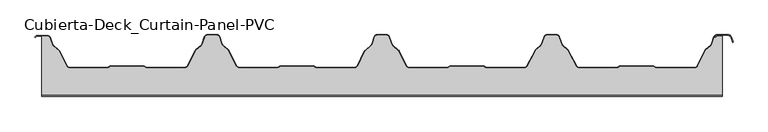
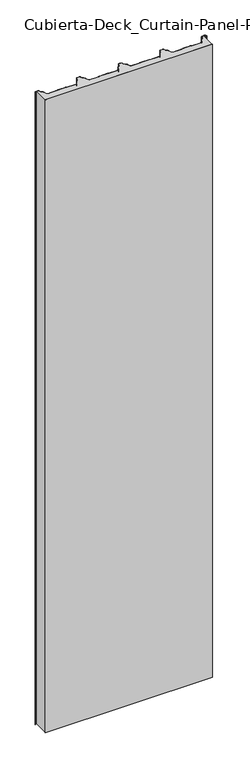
"""IFC4 building model written with IfcOpenShell, lengths in millimetres: plate geometry, Cubierta-Deck_Curtain-Panel-PVC : ACH_Cubierta-Deck_MW_40 mm."""

from ifc_helpers import new_model, si_unit, point, frame_2d, origin, origin_with_axes, place, context, project, spatial, polyline, circle_curve, trimmed, segment, composite_curve, outline, extrude, source, transform, mapped, element, save


def cubierta_deck_curtain_panel_pvc_17cb436e(model_context):
    return source(origin(), model_context, "Body", "SweptSolid", [
        extrude(outline(composite_curve([segment(polyline([(-349.0135941, -47.2718753), (-348.3934384, -47.892031)]), True, "CONTINUOUS"), segment(trimmed(circle_curve(frame_2d((-346.2014073, -45.7)), 3.1), [point((-348.3934384, -47.892031))], [point((-346.2014073, -48.8))], True, "CARTESIAN"), True, "CONTINUOUS"), segment(polyline([(-346.2014073, -48.8), (-289.4061861, -48.8)]), True, "CONTINUOUS"), segment(trimmed(circle_curve(frame_2d((-289.4061861, -44.5)), 4.3), [point((-289.4061861, -48.8))], [point((-285.5884085, -46.4785284))], True, "CARTESIAN"), True, "CONTINUOUS"), segment(polyline([(-285.5884085, -46.4785284), (-273.6825876, -23.505001)]), True, "CONTINUOUS"), segment(trimmed(circle_curve(frame_2d((-271.1078074, -24.8393573)), 2.9), [point((-273.6825876, -23.505001))], [point((-273.017236, -22.6566795))], False, "CARTESIAN"), True, "CONTINUOUS"), segment(polyline([(-273.017236, -22.6566795), (-265.2497907, -15.8616403)]), True, "CONTINUOUS"), segment(trimmed(circle_curve(frame_2d((-267.290904, -13.5284329)), 3.1), [point((-265.2497907, -15.8616403))], [point((-264.3739053, -14.5777749))], True, "CARTESIAN"), True, "CONTINUOUS"), segment(polyline([(-264.3739053, -14.5777749), (-260.2266586, -3.0491088)]), True, "CONTINUOUS"), segment(trimmed(circle_curve(frame_2d((-257.0273697, -4.2)), 3.4), [point((-260.2266586, -3.0491088))], [point((-257.0273697, -0.8))], False, "CARTESIAN"), True, "CONTINUOUS"), segment(polyline([(-257.0273697, -0.8), (-242.6920972, -0.8)]), True, "CONTINUOUS"), segment(trimmed(circle_curve(frame_2d((-242.6920972, -4.2)), 3.4), [point((-242.6920972, -0.8))], [point((-239.4928083, -3.0491088))], False, "CARTESIAN"), True, "CONTINUOUS"), segment(polyline([(-239.4928083, -3.0491088), (-235.3455616, -14.5777749)]), True, "CONTINUOUS"), segment(trimmed(circle_curve(frame_2d((-232.4285629, -13.5284329)), 3.1), [point((-235.3455616, -14.5777749))], [point((-234.4696761, -15.8616403))], True, "CARTESIAN"), True, "CONTINUOUS"), segment(polyline([(-234.4696761, -15.8616403), (-226.7022309, -22.6566795)]), True, "CONTINUOUS"), segment(trimmed(circle_curve(frame_2d((-228.6116595, -24.8393573)), 2.9), [point((-226.7022309, -22.6566795))], [point((-226.0368792, -23.505001))], False, "CARTESIAN"), True, "CONTINUOUS"), segment(polyline([(-226.0368792, -23.505001), (-214.1310583, -46.4785284)]), True, "CONTINUOUS"), segment(trimmed(circle_curve(frame_2d((-210.3132808, -44.5)), 4.3), [point((-214.1310583, -46.4785284))], [point((-210.3132808, -48.8))], True, "CARTESIAN"), True, "CONTINUOUS"), segment(polyline([(-210.3132808, -48.8), (-153.5333867, -48.8)]), True, "CONTINUOUS"), segment(trimmed(circle_curve(frame_2d((-153.5333867, -45.7)), 3.1), [point((-153.5333867, -48.8))], [point((-151.3413557, -47.892031))], True, "CARTESIAN"), True, "CONTINUOUS"), segment(polyline([(-151.3413557, -47.892031), (-150.7212, -47.2718753)]), True, "CONTINUOUS"), segment(trimmed(circle_curve(frame_2d((-149.0481053, -50.0020238)), 3.2020238), [point((-150.7212, -47.2718753))], [point((-149.0481053, -46.8))], False, "CARTESIAN"), True, "CONTINUOUS"), segment(polyline([(-149.0481053, -46.8), (-101.2020159, -46.8)]), True, "CONTINUOUS"), segment(trimmed(circle_curve(frame_2d((-101.2020159, -50.0020238)), 3.2020238), [point((-101.2020159, -46.8))], [point((-99.5289212, -47.2718753))], False, "CARTESIAN"), True, "CONTINUOUS"), segment(polyline([(-99.5289212, -47.2718753), (-98.9087655, -47.892031)]), True, "CONTINUOUS"), segment(trimmed(circle_curve(frame_2d((-96.7167345, -45.7)), 3.1), [point((-98.9087655, -47.892031))], [point((-96.7167345, -48.8))], True, "CARTESIAN"), True, "CONTINUOUS"), segment(polyline([(-96.7167345, -48.8), (-39.9215133, -48.8)]), True, "CONTINUOUS"), segment(trimmed(circle_curve(frame_2d((-39.9215133, -44.5)), 4.3), [point((-39.9215133, -48.8))], [point((-36.0707148, -46.4134657))], True, "CARTESIAN"), True, "CONTINUOUS"), segment(polyline([(-36.0707148, -46.4134657), (-25.2060392, -24.5485969)]), True, "CONTINUOUS"), segment(trimmed(circle_curve(frame_2d((-22.6089891, -25.8390738)), 2.9), [point((-25.2060392, -24.5485969))], [point((-24.5354625, -23.6714252))], False, "CARTESIAN"), True, "CONTINUOUS"), segment(polyline([(-24.5354625, -23.6714252), (-15.7323582, -15.8477646)]), True, "CONTINUOUS"), segment(trimmed(circle_curve(frame_2d((-17.7916919, -13.530623)), 3.1), [point((-15.7323582, -15.8477646))], [point((-14.8746932, -14.579965))], True, "CARTESIAN"), True, "CONTINUOUS"), segment(polyline([(-14.8746932, -14.579965), (-10.7266586, -3.0491088)]), True, "CONTINUOUS"), segment(trimmed(circle_curve(frame_2d((-7.5273697, -4.2)), 3.4), [point((-10.7266586, -3.0491088))], [point((-7.5273697, -0.8))], False, "CARTESIAN"), True, "CONTINUOUS"), segment(polyline([(-7.5273697, -0.8), (6.8079028, -0.8)]), True, "CONTINUOUS"), segment(trimmed(circle_curve(frame_2d((6.8079028, -4.2)), 3.4), [point((6.8079028, -0.8))], [point((10.0071917, -3.0491088))], False, "CARTESIAN"), True, "CONTINUOUS"), segment(polyline([(10.0071917, -3.0491088), (14.1552263, -14.579965)]), True, "CONTINUOUS"), segment(trimmed(circle_curve(frame_2d((17.072225, -13.530623)), 3.1), [point((14.1552263, -14.579965))], [point((15.0128913, -15.8477646))], True, "CARTESIAN"), True, "CONTINUOUS"), segment(polyline([(15.0128913, -15.8477646), (23.8159956, -23.6714252)]), True, "CONTINUOUS"), segment(trimmed(circle_curve(frame_2d((21.8895222, -25.8390738)), 2.9), [point((23.8159956, -23.6714252))], [point((24.4865724, -24.5485969))], False, "CARTESIAN"), True, "CONTINUOUS"), segment(polyline([(24.4865724, -24.5485969), (35.3512479, -46.4134657)]), True, "CONTINUOUS"), segment(trimmed(circle_curve(frame_2d((39.2020464, -44.5)), 4.3), [point((35.3512479, -46.4134657))], [point((39.2020464, -48.8))], True, "CARTESIAN"), True, "CONTINUOUS"), segment(polyline([(39.2020464, -48.8), (95.9819404, -48.8)]), True, "CONTINUOUS"), segment(trimmed(circle_curve(frame_2d((95.9819404, -45.7)), 3.1), [point((95.9819404, -48.8))], [point((98.1739715, -47.892031))], True, "CARTESIAN"), True, "CONTINUOUS"), segment(polyline([(98.1739715, -47.892031), (98.7941272, -47.2718753)]), True, "CONTINUOUS"), segment(trimmed(circle_curve(frame_2d((100.4672218, -50.0020238)), 3.2020238), [point((98.7941272, -47.2718753))], [point((100.4672218, -46.8))], False, "CARTESIAN"), True, "CONTINUOUS"), segment(polyline([(100.4672218, -46.8), (148.3133113, -46.8)]), True, "CONTINUOUS"), segment(trimmed(circle_curve(frame_2d((148.3133113, -50.0020238)), 3.2020238), [point((148.3133113, -46.8))], [point((149.9864059, -47.2718753))], False, "CARTESIAN"), True, "CONTINUOUS"), segment(polyline([(149.9864059, -47.2718753), (150.6065616, -47.892031)]), True, "CONTINUOUS"), segment(trimmed(circle_curve(frame_2d((152.7985927, -45.7)), 3.1), [point((150.6065616, -47.892031))], [point((152.7985927, -48.8))], True, "CARTESIAN"), True, "CONTINUOUS"), segment(polyline([(152.7985927, -48.8), (209.5938139, -48.8)]), True, "CONTINUOUS"), segment(trimmed(circle_curve(frame_2d((209.5938139, -44.5)), 4.3), [point((209.5938139, -48.8))], [point((213.4115915, -46.4785284))], True, "CARTESIAN"), True, "CONTINUOUS"), segment(polyline([(213.4115915, -46.4785284), (225.3174124, -23.505001)]), True, "CONTINUOUS"), segment(trimmed(circle_curve(frame_2d((227.8921926, -24.8393573)), 2.9), [point((225.3174124, -23.505001))], [point((225.982764, -22.6566795))], False, "CARTESIAN"), True, "CONTINUOUS"), segment(polyline([(225.982764, -22.6566795), (233.7502093, -15.8616403)]), True, "CONTINUOUS"), segment(trimmed(circle_curve(frame_2d((231.709096, -13.5284329)), 3.1), [point((233.7502093, -15.8616403))], [point((234.6260947, -14.5777749))], True, "CARTESIAN"), True, "CONTINUOUS"), segment(polyline([(234.6260947, -14.5777749), (238.7733414, -3.0491088)]), True, "CONTINUOUS"), segment(trimmed(circle_curve(frame_2d((241.9726303, -4.2)), 3.4), [point((238.7733414, -3.0491088))], [point((241.9726303, -0.8))], False, "CARTESIAN"), True, "CONTINUOUS"), segment(polyline([(241.9726303, -0.8), (256.3079028, -0.8)]), True, "CONTINUOUS"), segment(trimmed(circle_curve(frame_2d((256.3079028, -4.2)), 3.4), [point((256.3079028, -0.8))], [point((259.5071917, -3.0491088))], False, "CARTESIAN"), True, "CONTINUOUS"), segment(polyline([(259.5071917, -3.0491088), (263.6544384, -14.5777749)]), True, "CONTINUOUS"), segment(trimmed(circle_curve(frame_2d((266.5714371, -13.5284329)), 3.1), [point((263.6544384, -14.5777749))], [point((264.5303239, -15.8616403))], True, "CARTESIAN"), True, "CONTINUOUS"), segment(polyline([(264.5303239, -15.8616403), (272.2977691, -22.6566795)]), True, "CONTINUOUS"), segment(trimmed(circle_curve(frame_2d((270.3883405, -24.8393573)), 2.9), [point((272.2977691, -22.6566795))], [point((272.9631208, -23.505001))], False, "CARTESIAN"), True, "CONTINUOUS"), segment(polyline([(272.9631208, -23.505001), (284.8689417, -46.4785284)]), True, "CONTINUOUS"), segment(trimmed(circle_curve(frame_2d((288.6867192, -44.5)), 4.3), [point((284.8689417, -46.4785284))], [point((288.6867192, -48.8))], True, "CARTESIAN"), True, "CONTINUOUS"), segment(polyline([(288.6867192, -48.8), (345.4666133, -48.8)]), True, "CONTINUOUS"), segment(trimmed(circle_curve(frame_2d((345.4666133, -45.7)), 3.1), [point((345.4666133, -48.8))], [point((347.6586443, -47.892031))], True, "CARTESIAN"), True, "CONTINUOUS"), segment(polyline([(347.6586443, -47.892031), (348.2788, -47.2718753)]), True, "CONTINUOUS"), segment(trimmed(circle_curve(frame_2d((349.9518947, -50.0020238)), 3.2020238), [point((348.2788, -47.2718753))], [point((349.9518947, -46.8))], False, "CARTESIAN"), True, "CONTINUOUS"), segment(polyline([(349.9518947, -46.8), (397.7979841, -46.8)]), True, "CONTINUOUS"), segment(trimmed(circle_curve(frame_2d((397.7979841, -50.0020238)), 3.2020238), [point((397.7979841, -46.8))], [point((399.4710788, -47.2718753))], False, "CARTESIAN"), True, "CONTINUOUS"), segment(polyline([(399.4710788, -47.2718753), (400.0912345, -47.892031)]), True, "CONTINUOUS"), segment(trimmed(circle_curve(frame_2d((402.2832655, -45.7)), 3.1), [point((400.0912345, -47.892031))], [point((402.2832655, -48.8))], True, "CARTESIAN"), True, "CONTINUOUS"), segment(polyline([(402.2832655, -48.8), (460.084234, -48.8)]), True, "CONTINUOUS"), segment(trimmed(circle_curve(frame_2d((460.084234, -44.5)), 4.3), [point((460.084234, -48.8))], [point((463.9685573, -46.3444599))], True, "CARTESIAN"), True, "CONTINUOUS"), segment(polyline([(463.9685573, -46.3444599), (474.7696963, -23.5979005)]), True, "CONTINUOUS"), segment(trimmed(circle_curve(frame_2d((477.3893563, -24.8418385)), 2.9), [point((474.7696963, -23.5979005))], [point((475.4799277, -22.6591607))], False, "CARTESIAN"), True, "CONTINUOUS"), segment(polyline([(475.4799277, -22.6591607), (483.2502093, -15.8616403)]), True, "CONTINUOUS"), segment(trimmed(circle_curve(frame_2d((481.209096, -13.5284329)), 3.1), [point((483.2502093, -15.8616403))], [point((484.1260947, -14.5777749))], True, "CARTESIAN"), True, "CONTINUOUS"), segment(polyline([(484.1260947, -14.5777749), (488.2177168, -3.2037362), (490.5677139, -4.0491088)]), True, "CONTINUOUS"), segment(trimmed(circle_curve(frame_2d((493.7670027, -5.2)), 3.4), [point((490.5677139, -4.0491088))], [point((493.7670027, -1.8))], False, "CARTESIAN"), True, "CONTINUOUS"), segment(polyline([(493.7670027, -1.8), (500.0, -1.8), (500.0, -88.8), (-500.0, -88.8), (-500.0, -1.8), (-491.8323638, -1.8)]), True, "CONTINUOUS"), segment(trimmed(circle_curve(frame_2d((-491.8323638, -5.2)), 3.4), [point((-491.8323638, -1.8))], [point((-488.6330749, -4.0491088))], False, "CARTESIAN"), True, "CONTINUOUS"), segment(polyline([(-488.6330749, -4.0491088), (-484.8455616, -14.5777749)]), True, "CONTINUOUS"), segment(trimmed(circle_curve(frame_2d((-481.9285629, -13.5284329)), 3.1), [point((-484.8455616, -14.5777749))], [point((-483.9696761, -15.8616403))], True, "CARTESIAN"), True, "CONTINUOUS"), segment(polyline([(-483.9696761, -15.8616403), (-475.3099327, -23.4372709)]), True, "CONTINUOUS"), segment(trimmed(circle_curve(frame_2d((-477.2193612, -25.6199488)), 2.9), [point((-475.3099327, -23.4372709))], [point((-474.6223111, -24.3294719))], False, "CARTESIAN"), True, "CONTINUOUS"), segment(polyline([(-474.6223111, -24.3294719), (-463.6487521, -46.4134657)]), True, "CONTINUOUS"), segment(trimmed(circle_curve(frame_2d((-459.7979536, -44.5)), 4.3), [point((-463.6487521, -46.4134657))], [point((-459.7979536, -48.8))], True, "CARTESIAN"), True, "CONTINUOUS"), segment(polyline([(-459.7979536, -48.8), (-403.0180596, -48.8)]), True, "CONTINUOUS"), segment(trimmed(circle_curve(frame_2d((-403.0180596, -45.7)), 3.1), [point((-403.0180596, -48.8))], [point((-400.8260285, -47.892031))], True, "CARTESIAN"), True, "CONTINUOUS"), segment(polyline([(-400.8260285, -47.892031), (-400.2058728, -47.2718753)]), True, "CONTINUOUS"), segment(trimmed(circle_curve(frame_2d((-398.5327782, -50.0020238)), 3.2020238), [point((-400.2058728, -47.2718753))], [point((-398.5327782, -46.8))], False, "CARTESIAN"), True, "CONTINUOUS"), segment(polyline([(-398.5327782, -46.8), (-350.6866887, -46.8)]), True, "CONTINUOUS"), segment(trimmed(circle_curve(frame_2d((-350.6866887, -50.0020238)), 3.2020238), [point((-350.6866887, -46.8))], [point((-349.0135941, -47.2718753))], False, "CARTESIAN"), True, "CONTINUOUS")], self_intersect=False)), origin_with_axes(), (0.0, 0.0, 1.0), 4000.0),
        extrude(outline(composite_curve([segment(polyline([(-506.1676362, -1.0), (-491.8323638, -1.0)]), True, "CONTINUOUS"), segment(trimmed(circle_curve(frame_2d((-491.8323638, -5.2)), 4.2), [point((-491.8323638, -1.0))], [point((-487.880301, -3.7783109))], False, "CARTESIAN"), True, "CONTINUOUS"), segment(polyline([(-487.880301, -3.7783109), (-484.0927877, -14.3069769)]), True, "CONTINUOUS"), segment(trimmed(circle_curve(frame_2d((-481.9285629, -13.5284329)), 2.3), [point((-484.0927877, -14.3069769))], [point((-483.4429372, -15.2595222))], True, "CARTESIAN"), True, "CONTINUOUS"), segment(polyline([(-483.4429372, -15.2595222), (-474.7831938, -22.8351529)]), True, "CONTINUOUS"), segment(trimmed(circle_curve(frame_2d((-477.2193612, -25.6199488)), 3.7), [point((-474.7831938, -22.8351529))], [point((-473.9058834, -23.9734783))], False, "CARTESIAN"), True, "CONTINUOUS"), segment(polyline([(-473.9058834, -23.9734783), (-462.9323245, -46.0574721)]), True, "CONTINUOUS"), segment(trimmed(circle_curve(frame_2d((-459.7979536, -44.5)), 3.5), [point((-462.9323245, -46.0574721))], [point((-459.7979536, -48.0))], True, "CARTESIAN"), True, "CONTINUOUS"), segment(polyline([(-459.7979536, -48.0), (-403.0180596, -48.0)]), True, "CONTINUOUS"), segment(trimmed(circle_curve(frame_2d((-403.0180596, -45.7)), 2.3), [point((-403.0180596, -48.0))], [point((-401.391714, -47.3263456))], True, "CARTESIAN"), True, "CONTINUOUS"), segment(polyline([(-401.391714, -47.3263456), (-400.7083848, -46.6430165)]), True, "CONTINUOUS"), segment(trimmed(circle_curve(frame_2d((-398.5327782, -50.0020238)), 4.0020238), [point((-400.7083848, -46.6430165))], [point((-398.5327782, -46.0))], False, "CARTESIAN"), True, "CONTINUOUS"), segment(polyline([(-398.5327782, -46.0), (-350.6866887, -46.0)]), True, "CONTINUOUS"), segment(trimmed(circle_curve(frame_2d((-350.6866887, -50.0020238)), 4.0020238), [point((-350.6866887, -46.0))], [point((-348.511082, -46.6430165))], False, "CARTESIAN"), True, "CONTINUOUS"), segment(polyline([(-348.511082, -46.6430165), (-347.8277529, -47.3263456)]), True, "CONTINUOUS"), segment(trimmed(circle_curve(frame_2d((-346.2014073, -45.7)), 2.3), [point((-347.8277529, -47.3263456))], [point((-346.2014073, -48.0))], True, "CARTESIAN"), True, "CONTINUOUS"), segment(polyline([(-346.2014073, -48.0), (-289.4061861, -48.0)]), True, "CONTINUOUS"), segment(trimmed(circle_curve(frame_2d((-289.4061861, -44.5)), 3.5), [point((-289.4061861, -48.0))], [point((-286.2986927, -46.1104301))], True, "CARTESIAN"), True, "CONTINUOUS"), segment(polyline([(-286.2986927, -46.1104301), (-274.3928718, -23.1369027)]), True, "CONTINUOUS"), segment(trimmed(circle_curve(frame_2d((-271.1078074, -24.8393573)), 3.7), [point((-274.3928718, -23.1369027))], [point((-273.5439749, -22.0545614))], False, "CARTESIAN"), True, "CONTINUOUS"), segment(polyline([(-273.5439749, -22.0545614), (-265.7765297, -15.2595222)]), True, "CONTINUOUS"), segment(trimmed(circle_curve(frame_2d((-267.290904, -13.5284329)), 2.3), [point((-265.7765297, -15.2595222))], [point((-265.1266792, -14.3069769))], True, "CARTESIAN"), True, "CONTINUOUS"), segment(polyline([(-265.1266792, -14.3069769), (-260.9794324, -2.7783109)]), True, "CONTINUOUS"), segment(trimmed(circle_curve(frame_2d((-257.0273697, -4.2)), 4.2), [point((-260.9794324, -2.7783109))], [point((-257.0273697, 0.0))], False, "CARTESIAN"), True, "CONTINUOUS"), segment(polyline([(-257.0273697, 0.0), (-242.6920972, 0.0)]), True, "CONTINUOUS"), segment(trimmed(circle_curve(frame_2d((-242.6920972, -4.2)), 4.2), [point((-242.6920972, 0.0))], [point((-238.7400345, -2.7783109))], False, "CARTESIAN"), True, "CONTINUOUS"), segment(polyline([(-238.7400345, -2.7783109), (-234.5927877, -14.3069769)]), True, "CONTINUOUS"), segment(trimmed(circle_curve(frame_2d((-232.4285629, -13.5284329)), 2.3), [point((-234.5927877, -14.3069769))], [point((-233.9429372, -15.2595222))], True, "CARTESIAN"), True, "CONTINUOUS"), segment(polyline([(-233.9429372, -15.2595222), (-226.175492, -22.0545614)]), True, "CONTINUOUS"), segment(trimmed(circle_curve(frame_2d((-228.6116595, -24.8393573)), 3.7), [point((-226.175492, -22.0545614))], [point((-225.326595, -23.1369027))], False, "CARTESIAN"), True, "CONTINUOUS"), segment(polyline([(-225.326595, -23.1369027), (-213.4207742, -46.1104301)]), True, "CONTINUOUS"), segment(trimmed(circle_curve(frame_2d((-210.3132808, -44.5)), 3.5), [point((-213.4207742, -46.1104301))], [point((-210.3132808, -48.0))], True, "CARTESIAN"), True, "CONTINUOUS"), segment(polyline([(-210.3132808, -48.0), (-153.5333867, -48.0)]), True, "CONTINUOUS"), segment(trimmed(circle_curve(frame_2d((-153.5333867, -45.7)), 2.3), [point((-153.5333867, -48.0))], [point((-151.9070411, -47.3263456))], True, "CARTESIAN"), True, "CONTINUOUS"), segment(polyline([(-151.9070411, -47.3263456), (-151.223712, -46.6430165)]), True, "CONTINUOUS"), segment(trimmed(circle_curve(frame_2d((-149.0481053, -50.0020238)), 4.0020238), [point((-151.223712, -46.6430165))], [point((-149.0481053, -46.0))], False, "CARTESIAN"), True, "CONTINUOUS"), segment(polyline([(-149.0481053, -46.0), (-101.2020159, -46.0)]), True, "CONTINUOUS"), segment(trimmed(circle_curve(frame_2d((-101.2020159, -50.0020238)), 4.0020238), [point((-101.2020159, -46.0))], [point((-99.0264092, -46.6430165))], False, "CARTESIAN"), True, "CONTINUOUS"), segment(polyline([(-99.0264092, -46.6430165), (-98.3430801, -47.3263456)]), True, "CONTINUOUS"), segment(trimmed(circle_curve(frame_2d((-96.7167345, -45.7)), 2.3), [point((-98.3430801, -47.3263456))], [point((-96.7167345, -48.0))], True, "CARTESIAN"), True, "CONTINUOUS"), segment(polyline([(-96.7167345, -48.0), (-39.9215133, -48.0)]), True, "CONTINUOUS"), segment(trimmed(circle_curve(frame_2d((-39.9215133, -44.5)), 3.5), [point((-39.9215133, -48.0))], [point((-36.7871424, -46.0574721))], True, "CARTESIAN"), True, "CONTINUOUS"), segment(polyline([(-36.7871424, -46.0574721), (-25.9224669, -24.1926033)]), True, "CONTINUOUS"), segment(trimmed(circle_curve(frame_2d((-22.6089891, -25.8390738)), 3.7), [point((-25.9224669, -24.1926033))], [point((-25.0669035, -23.0734532))], False, "CARTESIAN"), True, "CONTINUOUS"), segment(polyline([(-25.0669035, -23.0734532), (-16.2637992, -15.2497926)]), True, "CONTINUOUS"), segment(trimmed(circle_curve(frame_2d((-17.7916919, -13.530623)), 2.3), [point((-16.2637992, -15.2497926))], [point((-15.627467, -14.3091671))], True, "CARTESIAN"), True, "CONTINUOUS"), segment(polyline([(-15.627467, -14.3091671), (-11.4794324, -2.7783109)]), True, "CONTINUOUS"), segment(trimmed(circle_curve(frame_2d((-7.5273697, -4.2)), 4.2), [point((-11.4794324, -2.7783109))], [point((-7.5273697, 0.0))], False, "CARTESIAN"), True, "CONTINUOUS"), segment(polyline([(-7.5273697, 0.0), (6.8079028, 0.0)]), True, "CONTINUOUS"), segment(trimmed(circle_curve(frame_2d((6.8079028, -4.2)), 4.2), [point((6.8079028, 0.0))], [point((10.7599655, -2.7783109))], False, "CARTESIAN"), True, "CONTINUOUS"), segment(polyline([(10.7599655, -2.7783109), (14.9080002, -14.3091671)]), True, "CONTINUOUS"), segment(trimmed(circle_curve(frame_2d((17.072225, -13.530623)), 2.3), [point((14.9080002, -14.3091671))], [point((15.5443323, -15.2497926))], True, "CARTESIAN"), True, "CONTINUOUS"), segment(polyline([(15.5443323, -15.2497926), (24.3474366, -23.0734532)]), True, "CONTINUOUS"), segment(trimmed(circle_curve(frame_2d((21.8895222, -25.8390738)), 3.7), [point((24.3474366, -23.0734532))], [point((25.203, -24.1926033))], False, "CARTESIAN"), True, "CONTINUOUS"), segment(polyline([(25.203, -24.1926033), (36.0676755, -46.0574721)]), True, "CONTINUOUS"), segment(trimmed(circle_curve(frame_2d((39.2020464, -44.5)), 3.5), [point((36.0676755, -46.0574721))], [point((39.2020464, -48.0))], True, "CARTESIAN"), True, "CONTINUOUS"), segment(polyline([(39.2020464, -48.0), (95.9819404, -48.0)]), True, "CONTINUOUS"), segment(trimmed(circle_curve(frame_2d((95.9819404, -45.7)), 2.3), [point((95.9819404, -48.0))], [point((97.608286, -47.3263456))], True, "CARTESIAN"), True, "CONTINUOUS"), segment(polyline([(97.608286, -47.3263456), (98.2916152, -46.6430165)]), True, "CONTINUOUS"), segment(trimmed(circle_curve(frame_2d((100.4672218, -50.0020238)), 4.0020238), [point((98.2916152, -46.6430165))], [point((100.4672218, -46.0))], False, "CARTESIAN"), True, "CONTINUOUS"), segment(polyline([(100.4672218, -46.0), (148.3133113, -46.0)]), True, "CONTINUOUS"), segment(trimmed(circle_curve(frame_2d((148.3133113, -50.0020238)), 4.0020238), [point((148.3133113, -46.0))], [point((150.488918, -46.6430165))], False, "CARTESIAN"), True, "CONTINUOUS"), segment(polyline([(150.488918, -46.6430165), (151.1722471, -47.3263456)]), True, "CONTINUOUS"), segment(trimmed(circle_curve(frame_2d((152.7985927, -45.7)), 2.3), [point((151.1722471, -47.3263456))], [point((152.7985927, -48.0))], True, "CARTESIAN"), True, "CONTINUOUS"), segment(polyline([(152.7985927, -48.0), (209.5938139, -48.0)]), True, "CONTINUOUS"), segment(trimmed(circle_curve(frame_2d((209.5938139, -44.5)), 3.5), [point((209.5938139, -48.0))], [point((212.7013073, -46.1104301))], True, "CARTESIAN"), True, "CONTINUOUS"), segment(polyline([(212.7013073, -46.1104301), (224.6071282, -23.1369027)]), True, "CONTINUOUS"), segment(trimmed(circle_curve(frame_2d((227.8921926, -24.8393573)), 3.7), [point((224.6071282, -23.1369027))], [point((225.4560251, -22.0545614))], False, "CARTESIAN"), True, "CONTINUOUS"), segment(polyline([(225.4560251, -22.0545614), (233.2234703, -15.2595222)]), True, "CONTINUOUS"), segment(trimmed(circle_curve(frame_2d((231.709096, -13.5284329)), 2.3), [point((233.2234703, -15.2595222))], [point((233.8733208, -14.3069769))], True, "CARTESIAN"), True, "CONTINUOUS"), segment(polyline([(233.8733208, -14.3069769), (238.0205676, -2.7783109)]), True, "CONTINUOUS"), segment(trimmed(circle_curve(frame_2d((241.9726303, -4.2)), 4.2), [point((238.0205676, -2.7783109))], [point((241.9726303, 0.0))], False, "CARTESIAN"), True, "CONTINUOUS"), segment(polyline([(241.9726303, 0.0), (256.3079028, 0.0)]), True, "CONTINUOUS"), segment(trimmed(circle_curve(frame_2d((256.3079028, -4.2)), 4.2), [point((256.3079028, 0.0))], [point((260.2599655, -2.7783109))], False, "CARTESIAN"), True, "CONTINUOUS"), segment(polyline([(260.2599655, -2.7783109), (264.4072123, -14.3069769)]), True, "CONTINUOUS"), segment(trimmed(circle_curve(frame_2d((266.5714371, -13.5284329)), 2.3), [point((264.4072123, -14.3069769))], [point((265.0570628, -15.2595222))], True, "CARTESIAN"), True, "CONTINUOUS"), segment(polyline([(265.0570628, -15.2595222), (272.824508, -22.0545614)]), True, "CONTINUOUS"), segment(trimmed(circle_curve(frame_2d((270.3883405, -24.8393573)), 3.7), [point((272.824508, -22.0545614))], [point((273.673405, -23.1369027))], False, "CARTESIAN"), True, "CONTINUOUS"), segment(polyline([(273.673405, -23.1369027), (285.5792258, -46.1104301)]), True, "CONTINUOUS"), segment(trimmed(circle_curve(frame_2d((288.6867192, -44.5)), 3.5), [point((285.5792258, -46.1104301))], [point((288.6867192, -48.0))], True, "CARTESIAN"), True, "CONTINUOUS"), segment(polyline([(288.6867192, -48.0), (345.4666133, -48.0)]), True, "CONTINUOUS"), segment(trimmed(circle_curve(frame_2d((345.4666133, -45.7)), 2.3), [point((345.4666133, -48.0))], [point((347.0929589, -47.3263456))], True, "CARTESIAN"), True, "CONTINUOUS"), segment(polyline([(347.0929589, -47.3263456), (347.776288, -46.6430165)]), True, "CONTINUOUS"), segment(trimmed(circle_curve(frame_2d((349.9518947, -50.0020238)), 4.0020238), [point((347.776288, -46.6430165))], [point((349.9518947, -46.0))], False, "CARTESIAN"), True, "CONTINUOUS"), segment(polyline([(349.9518947, -46.0), (397.7979841, -46.0)]), True, "CONTINUOUS"), segment(trimmed(circle_curve(frame_2d((397.7979841, -50.0020238)), 4.0020238), [point((397.7979841, -46.0))], [point((399.9735908, -46.6430165))], False, "CARTESIAN"), True, "CONTINUOUS"), segment(polyline([(399.9735908, -46.6430165), (400.6569199, -47.3263456)]), True, "CONTINUOUS"), segment(trimmed(circle_curve(frame_2d((402.2832655, -45.7)), 2.3), [point((400.6569199, -47.3263456))], [point((402.2832655, -48.0))], True, "CARTESIAN"), True, "CONTINUOUS"), segment(polyline([(402.2832655, -48.0), (460.084234, -48.0)]), True, "CONTINUOUS"), segment(trimmed(circle_curve(frame_2d((460.084234, -44.5)), 3.5), [point((460.084234, -48.0))], [point((463.2458925, -46.0013046))], True, "CARTESIAN"), True, "CONTINUOUS"), segment(polyline([(463.2458925, -46.0013046), (474.0470315, -23.2547451)]), True, "CONTINUOUS"), segment(trimmed(circle_curve(frame_2d((477.3893563, -24.8418385)), 3.7), [point((474.0470315, -23.2547451))], [point((474.9531888, -22.0570426))], False, "CARTESIAN"), True, "CONTINUOUS"), segment(polyline([(474.9531888, -22.0570426), (482.7234703, -15.2595222)]), True, "CONTINUOUS"), segment(trimmed(circle_curve(frame_2d((481.209096, -13.5284329)), 2.3), [point((482.7234703, -15.2595222))], [point((483.3733208, -14.3069769))], True, "CARTESIAN"), True, "CONTINUOUS"), segment(polyline([(483.3733208, -14.3069769), (487.5205676, -2.7783109)]), True, "CONTINUOUS"), segment(trimmed(circle_curve(frame_2d((491.4726303, -4.2)), 4.2), [point((487.5205676, -2.7783109))], [point((491.4726303, 0.0))], False, "CARTESIAN"), True, "CONTINUOUS"), segment(polyline([(491.4726303, 0.0), (508.6580917, 0.0)]), True, "CONTINUOUS"), segment(trimmed(circle_curve(frame_2d((508.6580917, -4.2)), 4.2), [point((508.6580917, 0.0))], [point((512.6101545, -2.7783109))], False, "CARTESIAN"), True, "CONTINUOUS"), segment(polyline([(512.6101545, -2.7783109), (515.5925551, -11.0688956), (514.8397812, -11.3396935), (511.8573806, -3.0491088)]), True, "CONTINUOUS"), segment(trimmed(circle_curve(frame_2d((508.6580917, -4.2)), 3.4), [point((511.8573806, -3.0491088))], [point((508.6580917, -0.8))], True, "CARTESIAN"), True, "CONTINUOUS"), segment(polyline([(508.6580917, -0.8), (491.4726303, -0.8)]), True, "CONTINUOUS"), segment(trimmed(circle_curve(frame_2d((491.4726303, -4.2)), 3.4), [point((491.4726303, -0.8))], [point((488.2733414, -3.0491088))], True, "CARTESIAN"), True, "CONTINUOUS"), segment(polyline([(488.2733414, -3.0491088), (484.1260947, -14.5777749)]), True, "CONTINUOUS"), segment(trimmed(circle_curve(frame_2d((481.209096, -13.5284329)), 3.1), [point((484.1260947, -14.5777749))], [point((483.2502093, -15.8616403))], False, "CARTESIAN"), True, "CONTINUOUS"), segment(polyline([(483.2502093, -15.8616403), (475.4799277, -22.6591607)]), True, "CONTINUOUS"), segment(trimmed(circle_curve(frame_2d((477.3893563, -24.8418385)), 2.9), [point((475.4799277, -22.6591607))], [point((474.7696963, -23.5979005))], True, "CARTESIAN"), True, "CONTINUOUS"), segment(polyline([(474.7696963, -23.5979005), (463.9685573, -46.3444599)]), True, "CONTINUOUS"), segment(trimmed(circle_curve(frame_2d((460.084234, -44.5)), 4.3), [point((463.9685573, -46.3444599))], [point((460.084234, -48.8))], False, "CARTESIAN"), True, "CONTINUOUS"), segment(polyline([(460.084234, -48.8), (402.2832655, -48.8)]), True, "CONTINUOUS"), segment(trimmed(circle_curve(frame_2d((402.2832655, -45.7)), 3.1), [point((402.2832655, -48.8))], [point((400.0912345, -47.892031))], False, "CARTESIAN"), True, "CONTINUOUS"), segment(polyline([(400.0912345, -47.892031), (399.4710788, -47.2718753)]), True, "CONTINUOUS"), segment(trimmed(circle_curve(frame_2d((397.7979841, -50.0020238)), 3.2020238), [point((399.4710788, -47.2718753))], [point((397.7979841, -46.8))], True, "CARTESIAN"), True, "CONTINUOUS"), segment(polyline([(397.7979841, -46.8), (349.9518947, -46.8)]), True, "CONTINUOUS"), segment(trimmed(circle_curve(frame_2d((349.9518947, -50.0020238)), 3.2020238), [point((349.9518947, -46.8))], [point((348.2788, -47.2718753))], True, "CARTESIAN"), True, "CONTINUOUS"), segment(polyline([(348.2788, -47.2718753), (347.6586443, -47.892031)]), True, "CONTINUOUS"), segment(trimmed(circle_curve(frame_2d((345.4666133, -45.7)), 3.1), [point((347.6586443, -47.892031))], [point((345.4666133, -48.8))], False, "CARTESIAN"), True, "CONTINUOUS"), segment(polyline([(345.4666133, -48.8), (288.6867192, -48.8)]), True, "CONTINUOUS"), segment(trimmed(circle_curve(frame_2d((288.6867192, -44.5)), 4.3), [point((288.6867192, -48.8))], [point((284.8689417, -46.4785284))], False, "CARTESIAN"), True, "CONTINUOUS"), segment(polyline([(284.8689417, -46.4785284), (272.9631208, -23.505001)]), True, "CONTINUOUS"), segment(trimmed(circle_curve(frame_2d((270.3883405, -24.8393573)), 2.9), [point((272.9631208, -23.505001))], [point((272.2977691, -22.6566795))], True, "CARTESIAN"), True, "CONTINUOUS"), segment(polyline([(272.2977691, -22.6566795), (264.5303239, -15.8616403)]), True, "CONTINUOUS"), segment(trimmed(circle_curve(frame_2d((266.5714371, -13.5284329)), 3.1), [point((264.5303239, -15.8616403))], [point((263.6544384, -14.5777749))], False, "CARTESIAN"), True, "CONTINUOUS"), segment(polyline([(263.6544384, -14.5777749), (259.5071917, -3.0491088)]), True, "CONTINUOUS"), segment(trimmed(circle_curve(frame_2d((256.3079028, -4.2)), 3.4), [point((259.5071917, -3.0491088))], [point((256.3079028, -0.8))], True, "CARTESIAN"), True, "CONTINUOUS"), segment(polyline([(256.3079028, -0.8), (241.9726303, -0.8)]), True, "CONTINUOUS"), segment(trimmed(circle_curve(frame_2d((241.9726303, -4.2)), 3.4), [point((241.9726303, -0.8))], [point((238.7733414, -3.0491088))], True, "CARTESIAN"), True, "CONTINUOUS"), segment(polyline([(238.7733414, -3.0491088), (234.6260947, -14.5777749)]), True, "CONTINUOUS"), segment(trimmed(circle_curve(frame_2d((231.709096, -13.5284329)), 3.1), [point((234.6260947, -14.5777749))], [point((233.7502093, -15.8616403))], False, "CARTESIAN"), True, "CONTINUOUS"), segment(polyline([(233.7502093, -15.8616403), (225.982764, -22.6566795)]), True, "CONTINUOUS"), segment(trimmed(circle_curve(frame_2d((227.8921926, -24.8393573)), 2.9), [point((225.982764, -22.6566795))], [point((225.3174124, -23.505001))], True, "CARTESIAN"), True, "CONTINUOUS"), segment(polyline([(225.3174124, -23.505001), (213.4115915, -46.4785284)]), True, "CONTINUOUS"), segment(trimmed(circle_curve(frame_2d((209.5938139, -44.5)), 4.3), [point((213.4115915, -46.4785284))], [point((209.5938139, -48.8))], False, "CARTESIAN"), True, "CONTINUOUS"), segment(polyline([(209.5938139, -48.8), (152.7985927, -48.8)]), True, "CONTINUOUS"), segment(trimmed(circle_curve(frame_2d((152.7985927, -45.7)), 3.1), [point((152.7985927, -48.8))], [point((150.6065616, -47.892031))], False, "CARTESIAN"), True, "CONTINUOUS"), segment(polyline([(150.6065616, -47.892031), (149.9864059, -47.2718753)]), True, "CONTINUOUS"), segment(trimmed(circle_curve(frame_2d((148.3133113, -50.0020238)), 3.2020238), [point((149.9864059, -47.2718753))], [point((148.3133113, -46.8))], True, "CARTESIAN"), True, "CONTINUOUS"), segment(polyline([(148.3133113, -46.8), (100.4672218, -46.8)]), True, "CONTINUOUS"), segment(trimmed(circle_curve(frame_2d((100.4672218, -50.0020238)), 3.2020238), [point((100.4672218, -46.8))], [point((98.7941272, -47.2718753))], True, "CARTESIAN"), True, "CONTINUOUS"), segment(polyline([(98.7941272, -47.2718753), (98.1739715, -47.892031)]), True, "CONTINUOUS"), segment(trimmed(circle_curve(frame_2d((95.9819404, -45.7)), 3.1), [point((98.1739715, -47.892031))], [point((95.9819404, -48.8))], False, "CARTESIAN"), True, "CONTINUOUS"), segment(polyline([(95.9819404, -48.8), (39.2020464, -48.8)]), True, "CONTINUOUS"), segment(trimmed(circle_curve(frame_2d((39.2020464, -44.5)), 4.3), [point((39.2020464, -48.8))], [point((35.3512479, -46.4134657))], False, "CARTESIAN"), True, "CONTINUOUS"), segment(polyline([(35.3512479, -46.4134657), (24.4865724, -24.5485969)]), True, "CONTINUOUS"), segment(trimmed(circle_curve(frame_2d((21.8895222, -25.8390738)), 2.9), [point((24.4865724, -24.5485969))], [point((23.8159956, -23.6714252))], True, "CARTESIAN"), True, "CONTINUOUS"), segment(polyline([(23.8159956, -23.6714252), (15.0128913, -15.8477646)]), True, "CONTINUOUS"), segment(trimmed(circle_curve(frame_2d((17.072225, -13.530623)), 3.1), [point((15.0128913, -15.8477646))], [point((14.1552263, -14.579965))], False, "CARTESIAN"), True, "CONTINUOUS"), segment(polyline([(14.1552263, -14.579965), (10.0071917, -3.0491088)]), True, "CONTINUOUS"), segment(trimmed(circle_curve(frame_2d((6.8079028, -4.2)), 3.4), [point((10.0071917, -3.0491088))], [point((6.8079028, -0.8))], True, "CARTESIAN"), True, "CONTINUOUS"), segment(polyline([(6.8079028, -0.8), (-7.5273697, -0.8)]), True, "CONTINUOUS"), segment(trimmed(circle_curve(frame_2d((-7.5273697, -4.2)), 3.4), [point((-7.5273697, -0.8))], [point((-10.7266586, -3.0491088))], True, "CARTESIAN"), True, "CONTINUOUS"), segment(polyline([(-10.7266586, -3.0491088), (-14.8746932, -14.579965)]), True, "CONTINUOUS"), segment(trimmed(circle_curve(frame_2d((-17.7916919, -13.530623)), 3.1), [point((-14.8746932, -14.579965))], [point((-15.7323582, -15.8477646))], False, "CARTESIAN"), True, "CONTINUOUS"), segment(polyline([(-15.7323582, -15.8477646), (-24.5354625, -23.6714252)]), True, "CONTINUOUS"), segment(trimmed(circle_curve(frame_2d((-22.6089891, -25.8390738)), 2.9), [point((-24.5354625, -23.6714252))], [point((-25.2060392, -24.5485969))], True, "CARTESIAN"), True, "CONTINUOUS"), segment(polyline([(-25.2060392, -24.5485969), (-36.0707148, -46.4134657)]), True, "CONTINUOUS"), segment(trimmed(circle_curve(frame_2d((-39.9215133, -44.5)), 4.3), [point((-36.0707148, -46.4134657))], [point((-39.9215133, -48.8))], False, "CARTESIAN"), True, "CONTINUOUS"), segment(polyline([(-39.9215133, -48.8), (-96.7167345, -48.8)]), True, "CONTINUOUS"), segment(trimmed(circle_curve(frame_2d((-96.7167345, -45.7)), 3.1), [point((-96.7167345, -48.8))], [point((-98.9087655, -47.892031))], False, "CARTESIAN"), True, "CONTINUOUS"), segment(polyline([(-98.9087655, -47.892031), (-99.5289212, -47.2718753)]), True, "CONTINUOUS"), segment(trimmed(circle_curve(frame_2d((-101.2020159, -50.0020238)), 3.2020238), [point((-99.5289212, -47.2718753))], [point((-101.2020159, -46.8))], True, "CARTESIAN"), True, "CONTINUOUS"), segment(polyline([(-101.2020159, -46.8), (-149.0481053, -46.8)]), True, "CONTINUOUS"), segment(trimmed(circle_curve(frame_2d((-149.0481053, -50.0020238)), 3.2020238), [point((-149.0481053, -46.8))], [point((-150.7212, -47.2718753))], True, "CARTESIAN"), True, "CONTINUOUS"), segment(polyline([(-150.7212, -47.2718753), (-151.3413557, -47.892031)]), True, "CONTINUOUS"), segment(trimmed(circle_curve(frame_2d((-153.5333867, -45.7)), 3.1), [point((-151.3413557, -47.892031))], [point((-153.5333867, -48.8))], False, "CARTESIAN"), True, "CONTINUOUS"), segment(polyline([(-153.5333867, -48.8), (-210.3132808, -48.8)]), True, "CONTINUOUS"), segment(trimmed(circle_curve(frame_2d((-210.3132808, -44.5)), 4.3), [point((-210.3132808, -48.8))], [point((-214.1310583, -46.4785284))], False, "CARTESIAN"), True, "CONTINUOUS"), segment(polyline([(-214.1310583, -46.4785284), (-226.0368792, -23.505001)]), True, "CONTINUOUS"), segment(trimmed(circle_curve(frame_2d((-228.6116595, -24.8393573)), 2.9), [point((-226.0368792, -23.505001))], [point((-226.7022309, -22.6566795))], True, "CARTESIAN"), True, "CONTINUOUS"), segment(polyline([(-226.7022309, -22.6566795), (-234.4696761, -15.8616403)]), True, "CONTINUOUS"), segment(trimmed(circle_curve(frame_2d((-232.4285629, -13.5284329)), 3.1), [point((-234.4696761, -15.8616403))], [point((-235.3455616, -14.5777749))], False, "CARTESIAN"), True, "CONTINUOUS"), segment(polyline([(-235.3455616, -14.5777749), (-239.4928083, -3.0491088)]), True, "CONTINUOUS"), segment(trimmed(circle_curve(frame_2d((-242.6920972, -4.2)), 3.4), [point((-239.4928083, -3.0491088))], [point((-242.6920972, -0.8))], True, "CARTESIAN"), True, "CONTINUOUS"), segment(polyline([(-242.6920972, -0.8), (-257.0273697, -0.8)]), True, "CONTINUOUS"), segment(trimmed(circle_curve(frame_2d((-257.0273697, -4.2)), 3.4), [point((-257.0273697, -0.8))], [point((-260.2266586, -3.0491088))], True, "CARTESIAN"), True, "CONTINUOUS"), segment(polyline([(-260.2266586, -3.0491088), (-264.3739053, -14.5777749)]), True, "CONTINUOUS"), segment(trimmed(circle_curve(frame_2d((-267.290904, -13.5284329)), 3.1), [point((-264.3739053, -14.5777749))], [point((-265.2497907, -15.8616403))], False, "CARTESIAN"), True, "CONTINUOUS"), segment(polyline([(-265.2497907, -15.8616403), (-273.017236, -22.6566795)]), True, "CONTINUOUS"), segment(trimmed(circle_curve(frame_2d((-271.1078074, -24.8393573)), 2.9), [point((-273.017236, -22.6566795))], [point((-273.6825876, -23.505001))], True, "CARTESIAN"), True, "CONTINUOUS"), segment(polyline([(-273.6825876, -23.505001), (-285.5884085, -46.4785284)]), True, "CONTINUOUS"), segment(trimmed(circle_curve(frame_2d((-289.4061861, -44.5)), 4.3), [point((-285.5884085, -46.4785284))], [point((-289.4061861, -48.8))], False, "CARTESIAN"), True, "CONTINUOUS"), segment(polyline([(-289.4061861, -48.8), (-346.2014073, -48.8)]), True, "CONTINUOUS"), segment(trimmed(circle_curve(frame_2d((-346.2014073, -45.7)), 3.1), [point((-346.2014073, -48.8))], [point((-348.3934384, -47.892031))], False, "CARTESIAN"), True, "CONTINUOUS"), segment(polyline([(-348.3934384, -47.892031), (-349.0135941, -47.2718753)]), True, "CONTINUOUS"), segment(trimmed(circle_curve(frame_2d((-350.6866887, -50.0020238)), 3.2020238), [point((-349.0135941, -47.2718753))], [point((-350.6866887, -46.8))], True, "CARTESIAN"), True, "CONTINUOUS"), segment(polyline([(-350.6866887, -46.8), (-398.5327782, -46.8)]), True, "CONTINUOUS"), segment(trimmed(circle_curve(frame_2d((-398.5327782, -50.0020238)), 3.2020238), [point((-398.5327782, -46.8))], [point((-400.2058728, -47.2718753))], True, "CARTESIAN"), True, "CONTINUOUS"), segment(polyline([(-400.2058728, -47.2718753), (-400.8260285, -47.892031)]), True, "CONTINUOUS"), segment(trimmed(circle_curve(frame_2d((-403.0180596, -45.7)), 3.1), [point((-400.8260285, -47.892031))], [point((-403.0180596, -48.8))], False, "CARTESIAN"), True, "CONTINUOUS"), segment(polyline([(-403.0180596, -48.8), (-459.7979536, -48.8)]), True, "CONTINUOUS"), segment(trimmed(circle_curve(frame_2d((-459.7979536, -44.5)), 4.3), [point((-459.7979536, -48.8))], [point((-463.6487521, -46.4134657))], False, "CARTESIAN"), True, "CONTINUOUS"), segment(polyline([(-463.6487521, -46.4134657), (-474.6223111, -24.3294719)]), True, "CONTINUOUS"), segment(trimmed(circle_curve(frame_2d((-477.2193612, -25.6199488)), 2.9), [point((-474.6223111, -24.3294719))], [point((-475.3099327, -23.4372709))], True, "CARTESIAN"), True, "CONTINUOUS"), segment(polyline([(-475.3099327, -23.4372709), (-483.9696761, -15.8616403)]), True, "CONTINUOUS"), segment(trimmed(circle_curve(frame_2d((-481.9285629, -13.5284329)), 3.1), [point((-483.9696761, -15.8616403))], [point((-484.8455616, -14.5777749))], False, "CARTESIAN"), True, "CONTINUOUS"), segment(polyline([(-484.8455616, -14.5777749), (-488.6330749, -4.0491088)]), True, "CONTINUOUS"), segment(trimmed(circle_curve(frame_2d((-491.8323638, -5.2)), 3.4), [point((-488.6330749, -4.0491088))], [point((-491.8323638, -1.8))], True, "CARTESIAN"), True, "CONTINUOUS"), segment(polyline([(-491.8323638, -1.8), (-506.1676362, -1.8)]), True, "CONTINUOUS"), segment(trimmed(circle_curve(frame_2d((-506.1676362, -5.2)), 3.4), [point((-506.1676362, -1.8))], [point((-509.3669251, -4.0491088))], True, "CARTESIAN"), True, "CONTINUOUS"), segment(polyline([(-509.3669251, -4.0491088), (-510.119699, -3.7783109)]), True, "CONTINUOUS"), segment(trimmed(circle_curve(frame_2d((-506.1676362, -5.2)), 4.2), [point((-510.119699, -3.7783109))], [point((-506.1676362, -1.0))], False, "CARTESIAN"), True, "CONTINUOUS")], self_intersect=False)), origin_with_axes(), (0.0, 0.0, 1.0), 4000.0),
        extrude(outline(polyline([(500.0, -88.8), (500.0, -90.8), (-500.0, -90.8), (-500.0, -88.8), (500.0, -88.8)])), origin_with_axes(), (0.0, 0.0, 1.0), 4000.0),
    ])


if __name__ == "__main__":
    model = new_model("IFC4")
    model_context = context("Model", 3, world=origin())
    ifc_project = project(units=[si_unit("LENGTHUNIT", "METRE", prefix="MILLI")], contexts=[model_context])
    site = spatial("IfcSite", under=ifc_project)
    building = spatial("IfcBuilding", under=site)
    placement = place(None, origin())
    cubierta_deck_curtain_panel_pvc_shape = cubierta_deck_curtain_panel_pvc_17cb436e(model_context)
    element("IfcPlate", 1, ObjectType="Cubierta-Deck_Curtain-Panel-PVC : ACH_Cubierta-Deck_MW_40 mm", at=placement, inside=building, context=model_context, shape_type="MappedRepresentation", body=[
        mapped(cubierta_deck_curtain_panel_pvc_shape, transform((0.0, 0.0, 0.0), x_axis=(1.0, 0.0, 0.0), y_axis=(0.0, 1.0, 0.0), z_axis=(0.0, 0.0, 1.0))),
    ])
    save(model, "model.ifc")
